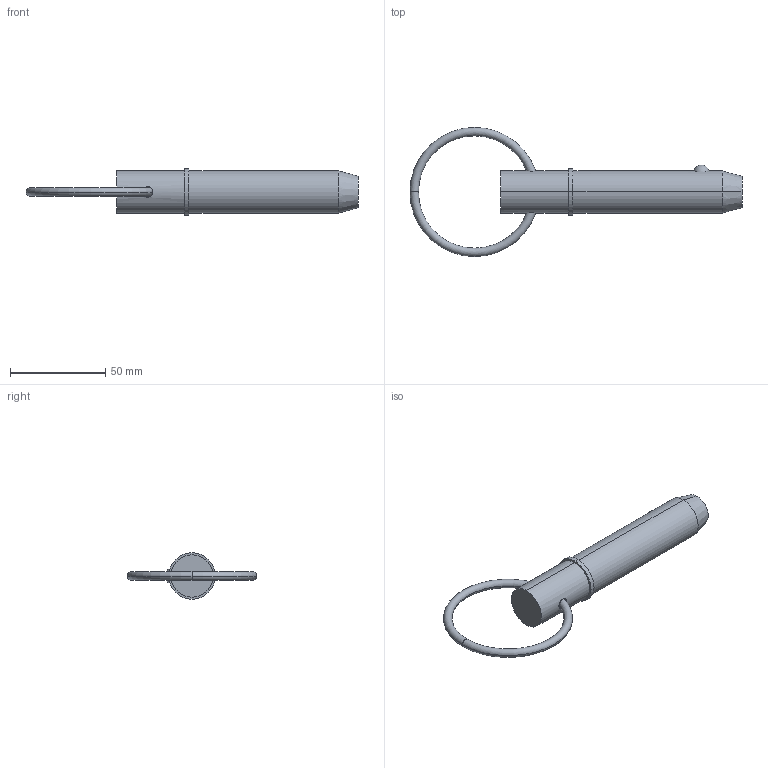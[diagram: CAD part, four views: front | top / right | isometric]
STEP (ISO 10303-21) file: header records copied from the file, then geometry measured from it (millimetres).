
FILE_DESCRIPTION (( 'STEP AP203' ), '1' );
FILE_NAME ('33014.W8825.step', '2024-11-04T08:37:18', ( '' ), ( '' ), 'SwSTEP 2.0', 'SolidWorks 2019', '' );
FILE_SCHEMA (( 'CONFIG_CONTROL_DESIGN' ));
Length unit declared in the file: millimetre
Products named in the file (3): Part1_33014.W8825; Part2_33014.W8825; 33014.W8825
Assembly tree (2 placements, depth 2):
  33014.W8825
    Part1_33014.W8825
    Part2_33014.W8825
Bounding box: 174.61 x 67.95 x 24.45 mm (x, y, z)
Volume: 51204.6 mm3; surface area: 12747.5 mm2
Topology: 2 solids, 2 shells, 22 faces, 43 edges, 26 vertices
Faces by surface type: torus 8, cylinder 6, plane 4, sphere 2, cone 2
Entity records: 1065 total; most frequent: CARTESIAN_POINT 288, DIRECTION 120, ORIENTED_EDGE 86, AXIS2_PLACEMENT_3D 56, EDGE_CURVE 43, CIRCLE 29, EDGE_LOOP 27, VERTEX_POINT 26
